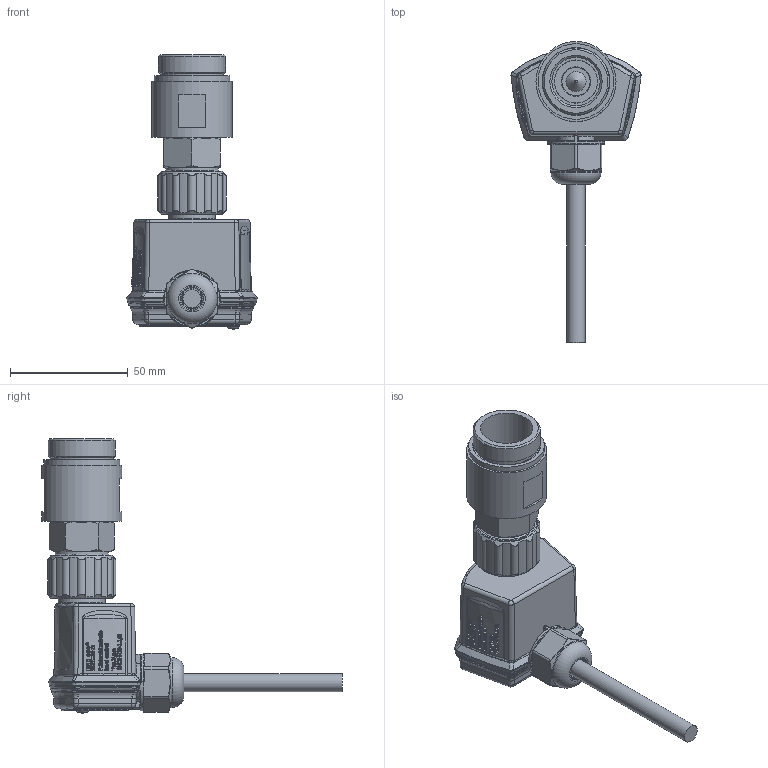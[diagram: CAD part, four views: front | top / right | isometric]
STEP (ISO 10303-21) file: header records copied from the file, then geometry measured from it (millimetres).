
FILE_DESCRIPTION(/* description */ (''),/* implementation_level */ '2;1');
FILE_NAME(/* name */ 'P:\ENC3\ENC3-M20-1_1_8\ENC3-M20-1_1_8.stp',/* time_stamp */ '2017-04-26T08:44:29+02:00',/* author */ ('neufeld'),/* organization */ (''),/* preprocessor_version */ 'ST-DEVELOPER v16.1',/* originating_system */ 'Autodesk Inventor 2016',/* authorisation */ '');
FILE_SCHEMA (('AUTOMOTIVE_DESIGN { 1 0 10303 214 3 1 1 }'));
Products named in the file (1): ENC3-M20-1_1_8_AG-Kunde
Bounding box: 55.24 x 127.65 x 116.53 mm (x, y, z)
Volume: 3694.6 mm3; surface area: 44735.1 mm2
Topology: 4 solids, 5 shells, 2993 faces, 7822 edges, 4838 vertices
Faces by surface type: bspline 1333, plane 590, cylinder 512, torus 251, cone 241, sphere 66
Full cylindrical faces by diameter (mm): 1 x1, 3.25 x1, 5 x1, 7.65 x1, 9 x1, 12 x1, 12.1 x1, 17 x2, 17.95 x1, 18 x1, 18.376 x2, 19.4 x3, 19.7 x1, 20 x3, 20.5 x2, 21.25 x1, 22.2 x1, 22.5 x1, 23 x1, 24.4 x1, 24.5 x1, 26.7 x1, 28.1 x1, 28.45 x1, 28.81 x1, 32.15 x1, 34 x1
Entity records: 133979 total; most frequent: CARTESIAN_POINT 68340, ORIENTED_EDGE 15194, DIRECTION 10240, EDGE_CURVE 7596, VERTEX_POINT 4794, AXIS2_PLACEMENT_3D 3883, EDGE_LOOP 3214, FACE_OUTER_BOUND 2986
